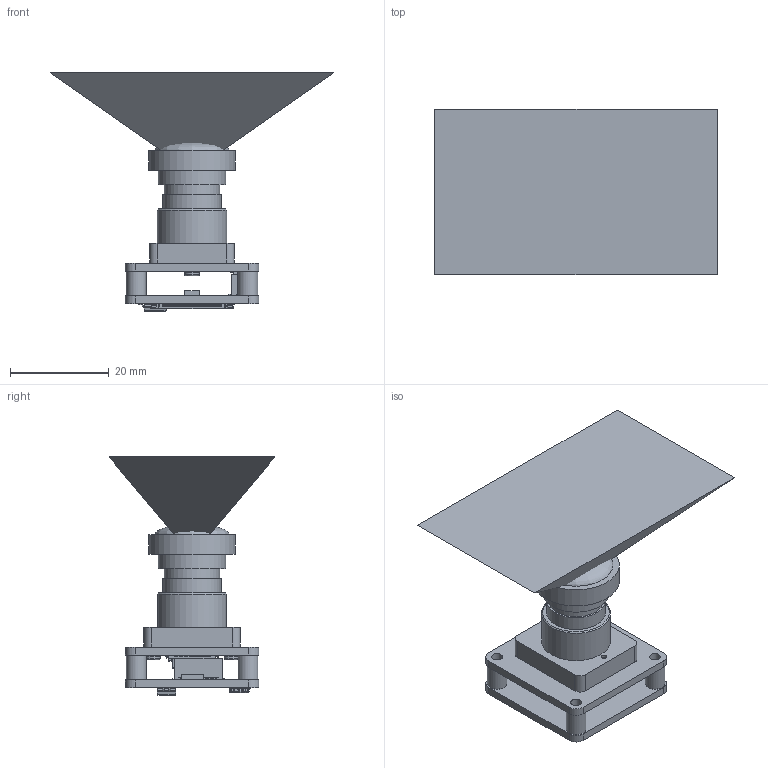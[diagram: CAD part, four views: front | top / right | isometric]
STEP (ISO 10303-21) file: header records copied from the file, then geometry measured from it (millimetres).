
FILE_DESCRIPTION(/* description */ ('STEP AP242 Edition 2','CAx-IF Rec.Pracs.---Representation and Presentation of Product Manufacturing Information (PMI)---4.0---2014-10-13','CAx-IF Rec.Pracs.---3D Tessellated Geometry---0.4---2014-09-14','2;1','CAx-IF Rec.Pracs.---User Defined Attributes---1.5---2016-08-15'),/* implementation_level */ '2;1');
FILE_NAME(/* name */ '6936e29aef49f703cc1fdc80',/* time_stamp */ '2025-12-08T14:37:18Z',/* author */ (''),/* organization */ (''),/* preprocessor_version */ 'ST-DEVELOPER v20',/* originating_system */ 'ONSHAPE BY PTC INC, 1.207',/* authorisation */ ' ');
FILE_SCHEMA (('AP242_MANAGED_MODEL_BASED_3D_ENGINEERING_MIM_LF { 1 0 10303 442 3 1 4 }'));
Products named in the file (72): ZED X ONE Core; Spacer barebone; Wide lens <1>; FOV; Wide lens; Image plane; Screw - Cheese Head Phillips - M1.4 x 0.3 x 5 - Steel - Natural - Zin
c Plate - Glued; Camera Component - Lens Holder; PCB ZED ONE Barebone <1>; 1085; 20525-x30E-02C RECE ASS''Y STEP R7 ALL; ASSEMBLY <1>; PinsArrayLR; Body; Camera Component - PCB Sensor - ZED X One GS <1>; 10132798-032100LF; ZEDX-ONE-AR0234 V1.0_TOP; 05PITCH-50H-30PIN_ASM <1>; TERMINAL; PAD1; PAD2; 05-50H-30PIN
Assembly tree (97 placements, depth 4):
  ZED X ONE Core
    Spacer barebone  x4
    Wide lens <1>
      FOV
      Wide lens
      Image plane
    Screw - Cheese Head Phillips - M1.4 x 0.3 x 5 - Steel - Natural - Zin
c Plate - Glued  x2
    Camera Component - Lens Holder
    PCB ZED ONE Barebone <1>
      1085
      1085
      1085
      1085
      1085
      1085
      1085
      1085
      1085
      ASSEMBLY <1>
        PinsArrayLR
        PinsArrayLR
        PinsArrayLR
        Body
        PinsArrayLR
      Camera Component - PCB Sensor - ZED X One GS <1>
        10132798-032100LF
        10132798-032100LF
        10132798-032100LF
        10132798-032100LF
        10132798-032100LF
        10132798-032100LF
        10132798-032100LF
        10132798-032100LF
        10132798-032100LF
        10132798-032100LF
        10132798-032100LF
        10132798-032100LF
        10132798-032100LF
        10132798-032100LF
        10132798-032100LF
        10132798-032100LF
        10132798-032100LF
        10132798-032100LF
        10132798-032100LF
        10132798-032100LF
        10132798-032100LF
        10132798-032100LF
        ZEDX-ONE-AR0234 V1.0_TOP
        10132798-032100LF
        10132798-032100LF
        10132798-032100LF
        10132798-032100LF
        10132798-032100LF
        10132798-032100LF
        10132798-032100LF
        10132798-032100LF
        10132798-032100LF
        10132798-032100LF
        10132798-032100LF
      1085
Bounding box: 57.13 x 33.56 x 48.19 mm (x, y, z)
Volume: 19536.8 mm3; surface area: 12932.1 mm2
Topology: 98 solids, 98 shells, 5217 faces, 15099 edges, 9971 vertices
Faces by surface type: plane 3605, cylinder 1584, cone 14, bspline 10, torus 4
Full cylindrical faces by diameter (mm): 0.5 x4, 0.562 x1, 0.6 x4, 1 x2, 1.05 x2, 1.1 x2, 1.4 x2, 1.42 x2, 1.5 x2, 2.2 x20, 3 x2, 4 x20, 11.2 x2, 11.5 x1, 11.834 x1, 13.6 x1, 14 x1, 15.2 x1, 17.5 x1
Entity records: 141318 total; most frequent: CARTESIAN_POINT 25007, ORIENTED_EDGE 24176, DIRECTION 22836, EDGE_CURVE 12088, LINE 9738, VECTOR 9738, VERTEX_POINT 8011, AXIS2_PLACEMENT_3D 6549
